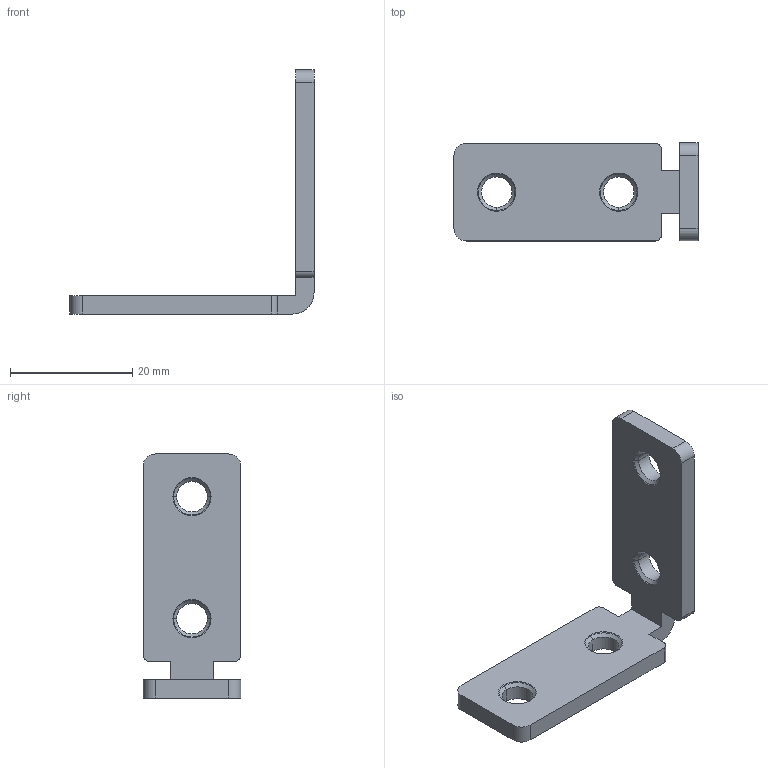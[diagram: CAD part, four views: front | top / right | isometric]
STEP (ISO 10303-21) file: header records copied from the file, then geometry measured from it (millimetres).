
FILE_DESCRIPTION((''),'2;1');
FILE_NAME('GII9030','2002-12-27T',('Lipro doo'),('Lipro d.o.o.'),'PRO/ENGINEER BY PARAMETRIC TECHNOLOGY CORPORATION, 2001150','PRO/ENGINEER BY PARAMETRIC TECHNOLOGY CORPORATION, 2001150','');
FILE_SCHEMA(('CONFIG_CONTROL_DESIGN'));
Length unit declared in the file: millimetre
Products named in the file (1): GII9030
Bounding box: 40 x 16 x 40 mm (x, y, z)
Volume: 3172.8 mm3; surface area: 3101.4 mm2
Topology: 1 solids, 5 shells, 49 faces, 133 edges, 86 vertices
Faces by surface type: cylinder 25, plane 16, cone 8
Entity records: 1612 total; most frequent: DIRECTION 291, CARTESIAN_POINT 269, ORIENTED_EDGE 250, EDGE_CURVE 133, AXIS2_PLACEMENT_3D 108, VERTEX_POINT 86, VECTOR 75, LINE 75
